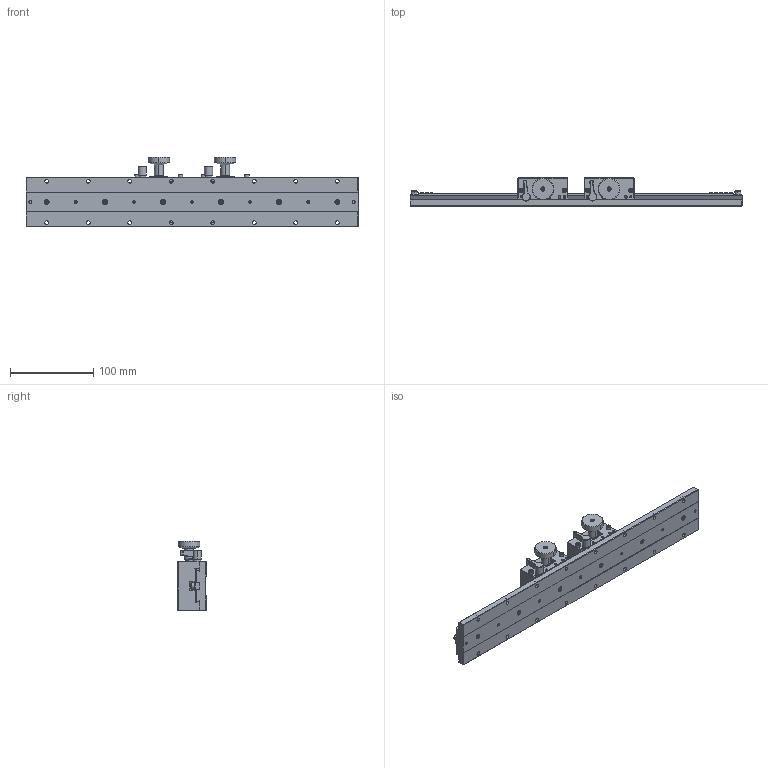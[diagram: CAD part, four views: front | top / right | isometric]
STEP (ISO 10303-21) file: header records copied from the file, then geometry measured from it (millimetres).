
FILE_DESCRIPTION (( 'STEP AP203' ), '1' );
FILE_NAME ('AD340C-60D2 (AP203).STEP', '2020-10-29T07:53:14', ( 'China' ), ( 'Microsoft' ), 'SwSTEP 2.0', 'SolidWorks 2017', '' );
FILE_SCHEMA (( 'CONFIG_CONTROL_DESIGN' ));
Length unit declared in the file: millimetre
Products named in the file (1): AD340C-60D2 (AP203)
Bounding box: 400 x 34 x 83.99 mm (x, y, z)
Surface area: 110402.1 mm2 (no closed solid volume)
Topology: 0 solids, 64 shells, 868 faces, 2806 edges, 1925 vertices
Faces by surface type: plane 501, cylinder 250, cone 58, torus 55, bspline 4
Entity records: 31094 total; most frequent: CARTESIAN_POINT 6212, DIRECTION 5303, ORIENTED_EDGE 4533, EDGE_CURVE 2774, VERTEX_POINT 1925, VECTOR 1855, LINE 1855, AXIS2_PLACEMENT_3D 1724
